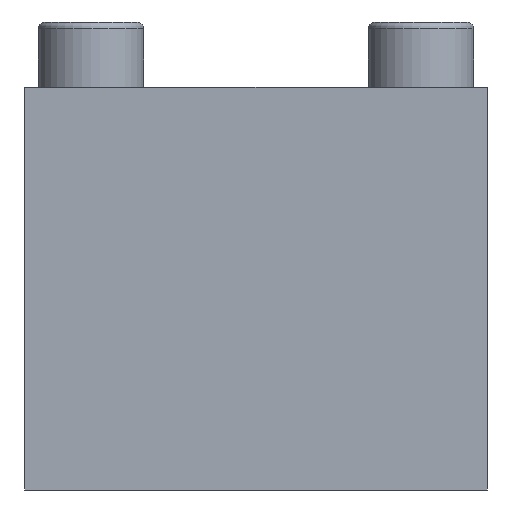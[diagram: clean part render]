
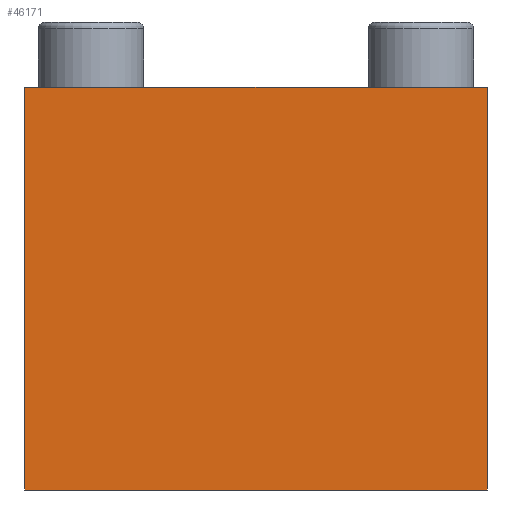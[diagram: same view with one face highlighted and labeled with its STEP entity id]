
A CAD part, front view. The second image highlights one B-rep face of the part: STEP entity #46171.
In plain terms, the highlighted planar face has unit normal (0, -1, 0).
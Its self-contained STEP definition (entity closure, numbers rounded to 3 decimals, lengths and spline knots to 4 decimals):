
#2478=FACE_OUTER_BOUND('',#5162,.T.);
#5162=EDGE_LOOP('',(#30714,#30715,#30716,#30717));
#7687=LINE('',#59581,#12787);
#9018=LINE('',#64801,#14118);
#9021=LINE('',#64807,#14121);
#9022=LINE('',#64808,#14122);
#12787=VECTOR('',#50570,7.);
#14118=VECTOR('',#52067,6.1);
#14121=VECTOR('',#52072,6.1);
#14122=VECTOR('',#52073,7.);
#17887=VERTEX_POINT('',#59578);
#17888=VERTEX_POINT('',#59580);
#19758=VERTEX_POINT('',#64800);
#19760=VERTEX_POINT('',#64806);
#22271=EDGE_CURVE('',#17887,#17888,#7687,.T.);
#24142=EDGE_CURVE('',#17887,#19758,#9018,.T.);
#24145=EDGE_CURVE('',#17888,#19760,#9021,.T.);
#24146=EDGE_CURVE('',#19760,#19758,#9022,.T.);
#30714=ORIENTED_EDGE('',*,*,#24145,.F.);
#30715=ORIENTED_EDGE('',*,*,#22271,.F.);
#30716=ORIENTED_EDGE('',*,*,#24142,.T.);
#30717=ORIENTED_EDGE('',*,*,#24146,.F.);
#41906=PLANE('',#48695);
#46171=ADVANCED_FACE('',(#2478),#41906,.T.);
#48695=AXIS2_PLACEMENT_3D('',#64805,#52070,#52071);
#50570=DIRECTION('',(1.,0.,0.));
#52067=DIRECTION('',(0.,0.,-1.));
#52070=DIRECTION('center_axis',(0.,-1.,0.));
#52071=DIRECTION('ref_axis',(-1.,0.,0.));
#52072=DIRECTION('',(0.,0.,-1.));
#52073=DIRECTION('',(-1.,0.,0.));
#59578=CARTESIAN_POINT('',(-3.5,-12.5,4.85));
#59580=CARTESIAN_POINT('',(3.5,-12.5,4.85));
#59581=CARTESIAN_POINT('',(3.5,-12.5,4.85));
#64800=CARTESIAN_POINT('',(-3.5,-12.5,-1.25));
#64801=CARTESIAN_POINT('',(-3.5,-12.5,0.));
#64805=CARTESIAN_POINT('Origin',(3.5,-12.5,3.6));
#64806=CARTESIAN_POINT('',(3.5,-12.5,-1.25));
#64807=CARTESIAN_POINT('',(3.5,-12.5,0.));
#64808=CARTESIAN_POINT('',(3.5,-12.5,-1.25));
